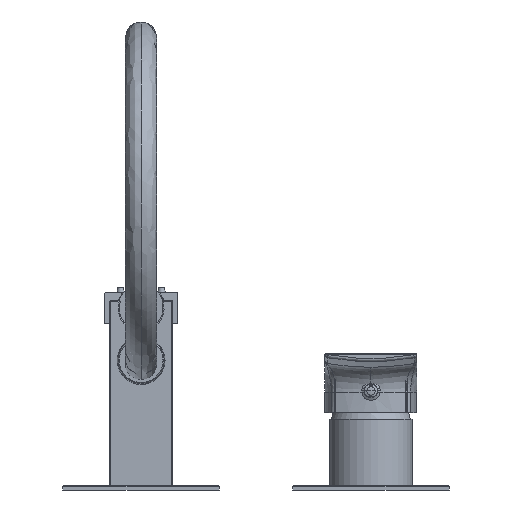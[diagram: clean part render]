
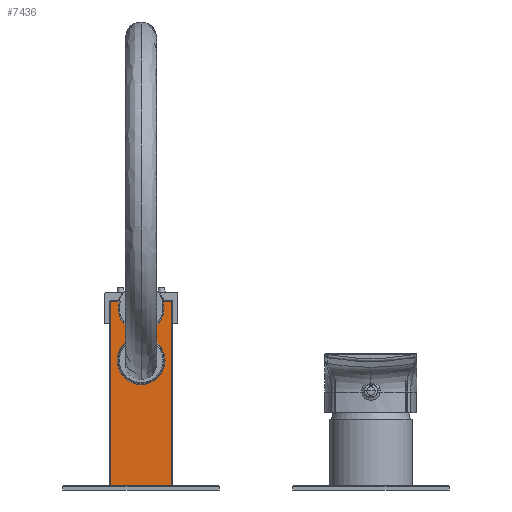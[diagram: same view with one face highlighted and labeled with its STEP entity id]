
A CAD part, front view. The second image highlights one B-rep face of the part: STEP entity #7436.
In plain terms, the highlighted planar face has unit normal (0, -1, 0).
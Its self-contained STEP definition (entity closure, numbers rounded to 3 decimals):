
#1717=DIRECTION('',(0.,0.,1.));
#1718=VECTOR('',#1717,88.1);
#1719=CARTESIAN_POINT('',(-126.5,-13.,45.7));
#1720=LINE('',#1719,#1718);
#1721=DIRECTION('',(-1.,0.,0.));
#1722=VECTOR('',#1721,3.942);
#1723=CARTESIAN_POINT('',(-122.558,-13.,133.8));
#1724=LINE('',#1723,#1722);
#1725=CARTESIAN_POINT('',(-112.,-13.,130.7));
#1726=DIRECTION('',(0.,1.,0.));
#1727=DIRECTION('',(0.959,0.,0.283));
#1728=AXIS2_PLACEMENT_3D('',#1725,#1726,#1727);
#1730=DIRECTION('',(-1.,0.,0.));
#1731=VECTOR('',#1730,3.945);
#1732=CARTESIAN_POINT('',(-97.5,-13.,133.809));
#1733=LINE('',#1732,#1731);
#1734=DIRECTION('',(0.,0.,-1.));
#1735=VECTOR('',#1734,88.109);
#1736=CARTESIAN_POINT('',(-97.5,-13.,133.809));
#1737=LINE('',#1736,#1735);
#1738=DIRECTION('',(-1.,0.,0.));
#1739=VECTOR('',#1738,29.);
#1740=CARTESIAN_POINT('',(-97.5,-13.,45.7));
#1741=LINE('',#1740,#1739);
#1882=CARTESIAN_POINT('',(-112.,-13.,105.7));
#1883=DIRECTION('',(0.,-1.,0.));
#1884=DIRECTION('',(0.,0.,-1.));
#1885=AXIS2_PLACEMENT_3D('',#1882,#1883,#1884);
#1892=CARTESIAN_POINT('',(-112.,-13.,105.7));
#1893=DIRECTION('',(0.,-1.,0.));
#1894=DIRECTION('',(0.,0.,1.));
#1895=AXIS2_PLACEMENT_3D('',#1892,#1893,#1894);
#5314=CARTESIAN_POINT('',(-97.5,-13.,133.809));
#5315=VERTEX_POINT('',#5314);
#5316=CARTESIAN_POINT('',(-101.445,-13.,133.809));
#5317=VERTEX_POINT('',#5316);
#5320=CARTESIAN_POINT('',(-122.558,-13.,133.8));
#5321=VERTEX_POINT('',#5320);
#5324=CARTESIAN_POINT('',(-126.5,-13.,133.8));
#5325=VERTEX_POINT('',#5324);
#5372=CARTESIAN_POINT('',(-97.5,-13.,45.7));
#5373=CARTESIAN_POINT('',(-126.5,-13.,45.7));
#5374=VERTEX_POINT('',#5372);
#5375=VERTEX_POINT('',#5373);
#6239=CARTESIAN_POINT('',(-112.,-13.,94.242));
#6240=CARTESIAN_POINT('',(-112.,-13.,117.158));
#6241=VERTEX_POINT('',#6239);
#6242=VERTEX_POINT('',#6240);
#7413=CARTESIAN_POINT('',(-127.,-13.,150.7));
#7414=DIRECTION('',(0.,1.,0.));
#7415=DIRECTION('',(0.,0.,-1.));
#7416=AXIS2_PLACEMENT_3D('',#7413,#7414,#7415);
#7417=PLANE('',#7416);
#7419=ORIENTED_EDGE('',*,*,#7418,.T.);
#7420=ORIENTED_EDGE('',*,*,#7403,.F.);
#7422=ORIENTED_EDGE('',*,*,#7421,.F.);
#7424=ORIENTED_EDGE('',*,*,#7423,.F.);
#7426=ORIENTED_EDGE('',*,*,#7425,.T.);
#7427=ORIENTED_EDGE('',*,*,#7193,.T.);
#7428=EDGE_LOOP('',(#7419,#7420,#7422,#7424,#7426,#7427));
#7429=FACE_OUTER_BOUND('',#7428,.F.);
#7431=ORIENTED_EDGE('',*,*,#7430,.T.);
#7433=ORIENTED_EDGE('',*,*,#7432,.T.);
#7434=EDGE_LOOP('',(#7431,#7433));
#7435=FACE_BOUND('',#7434,.F.);
#7436=ADVANCED_FACE('',(#7429,#7435),#7417,.F.);
#1729=CIRCLE('',#1728,11.004);
#1886=CIRCLE('',#1885,11.458);
#1896=CIRCLE('',#1895,11.458);
#7193=EDGE_CURVE('',#5374,#5375,#1741,.T.);
#7403=EDGE_CURVE('',#5321,#5325,#1724,.T.);
#7418=EDGE_CURVE('',#5375,#5325,#1720,.T.);
#7421=EDGE_CURVE('',#5317,#5321,#1729,.T.);
#7423=EDGE_CURVE('',#5315,#5317,#1733,.T.);
#7425=EDGE_CURVE('',#5315,#5374,#1737,.T.);
#7430=EDGE_CURVE('',#6241,#6242,#1886,.T.);
#7432=EDGE_CURVE('',#6242,#6241,#1896,.T.);
